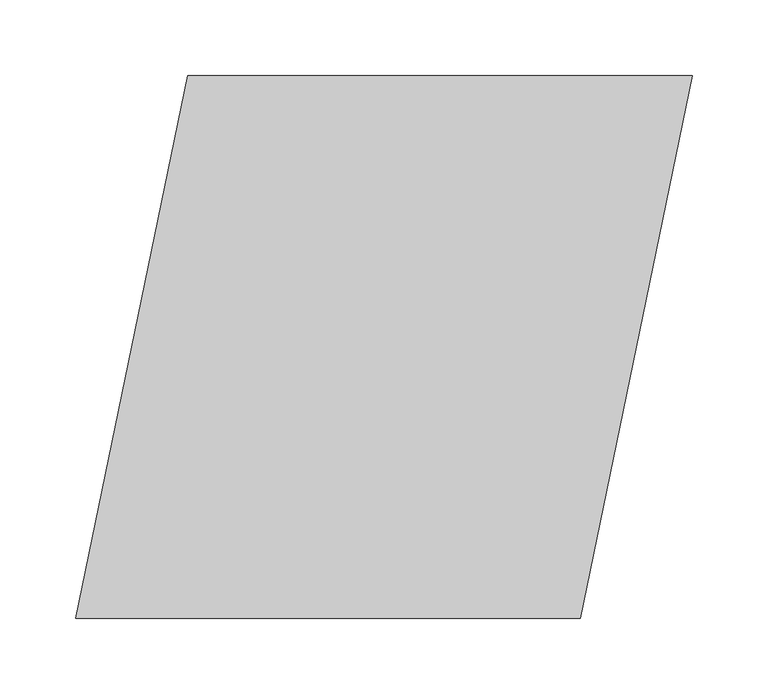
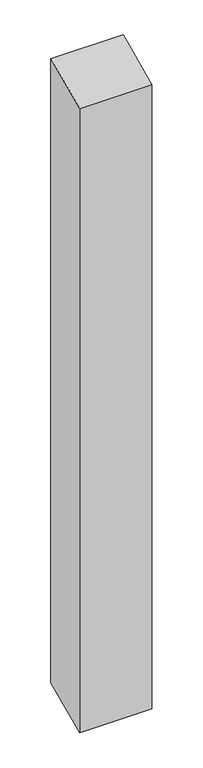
"""IFC4 building model written with IfcOpenShell, lengths in millimetres: column geometry, COLUMN (SOUTHEAST CORNER) : COLUMN (SOUTHEAST CORNER)."""

from ifc_helpers import new_model, si_unit, origin, origin_with_axes, place, context, project, spatial, polyline, outline, extrude, source, transform, mapped, element, save


def column_8a548fa0(model_context):
    return source(origin(), model_context, "Body", "SweptSolid", [
        extrude(outline(polyline([(17610.0437495, 87549.5402481), (17943.0633635, 87549.5402481), (17869.0435763, 87191.0689412), (17536.0239622, 87191.0689412), (17610.0437495, 87549.5402481)])), origin_with_axes(), (0.0, 0.0, 1.0), 3048.0),
    ])


if __name__ == "__main__":
    model = new_model("IFC4")
    model_context = context("Model", 3, world=origin())
    ifc_project = project(units=[si_unit("LENGTHUNIT", "METRE", prefix="MILLI")], contexts=[model_context])
    site = spatial("IfcSite", under=ifc_project)
    building = spatial("IfcBuilding", under=site)
    placement = place(None, origin())
    column_shape = column_8a548fa0(model_context)
    element("IfcColumn", 1, ObjectType="COLUMN (SOUTHEAST CORNER) : COLUMN (SOUTHEAST CORNER)", at=placement, inside=building, context=model_context, shape_type="MappedRepresentation", body=[
        mapped(column_shape, transform((0.0, 0.0, 0.0), x_axis=(1.0, 0.0, 0.0), y_axis=(0.0, 1.0, 0.0), z_axis=(0.0, 0.0, 1.0))),
    ])
    save(model, "model.ifc")
